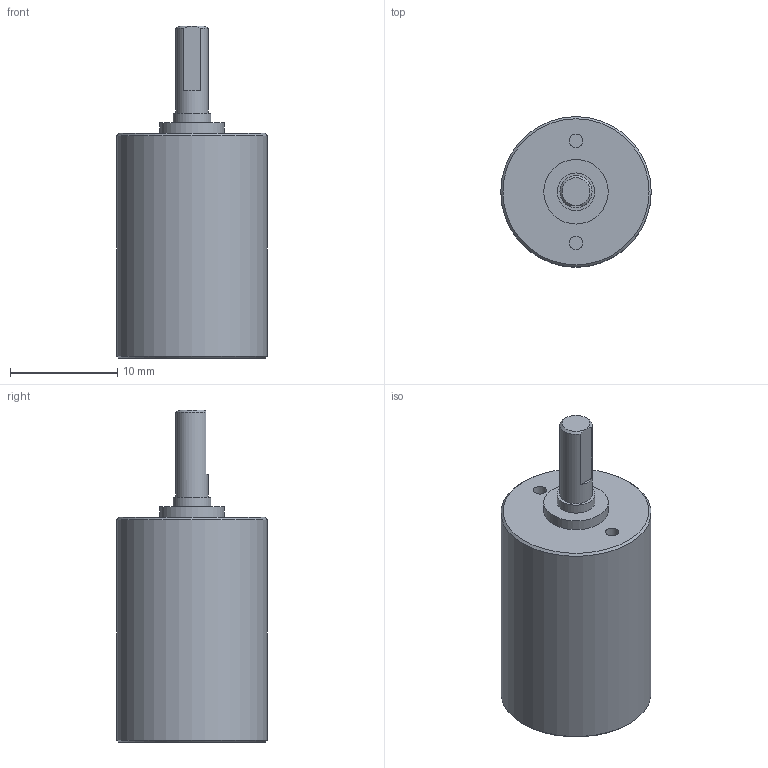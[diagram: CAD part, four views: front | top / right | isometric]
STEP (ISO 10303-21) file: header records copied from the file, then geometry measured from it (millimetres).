
FILE_DESCRIPTION(/* description */ (''),/* implementation_level */ '2;1');
FILE_NAME(/* name */ '14-1_1.stp',/* time_stamp */ '2016-08-24T13:43:26+02:00',/* author */ ('DR. FRITZ FAULHABER GmbH & Co. KG'),/* organization */ ('DR. FRITZ FAULHABER GmbH & Co. KG'),/* preprocessor_version */ 'ST-DEVELOPER v16',/* originating_system */ 'SIEMENS PLM Software NX 10.0',/* authorisation */ '');
FILE_SCHEMA (('AUTOMOTIVE_DESIGN { 1 0 10303 214 3 1 1 1 }'));
Length unit declared in the file: millimetre
Products named in the file (1): H00000254_A
Bounding box: 14 x 14 x 30.9 mm (x, y, z)
Volume: 2263.1 mm3; surface area: 1748.4 mm2
Topology: 1 solids, 1 shells, 22 faces, 38 edges, 25 vertices
Faces by surface type: plane 11, cylinder 8, cone 3
Full cylindrical faces by diameter (mm): 1.25 x2, 3 x1, 3.5 x1, 6 x2, 13 x1, 14 x1
Entity records: 483 total; most frequent: DIRECTION 89, CARTESIAN_POINT 76, ORIENTED_EDGE 50, AXIS2_PLACEMENT_3D 43, EDGE_LOOP 39, FACE_BOUND 32, EDGE_CURVE 25, ADVANCED_FACE 22
